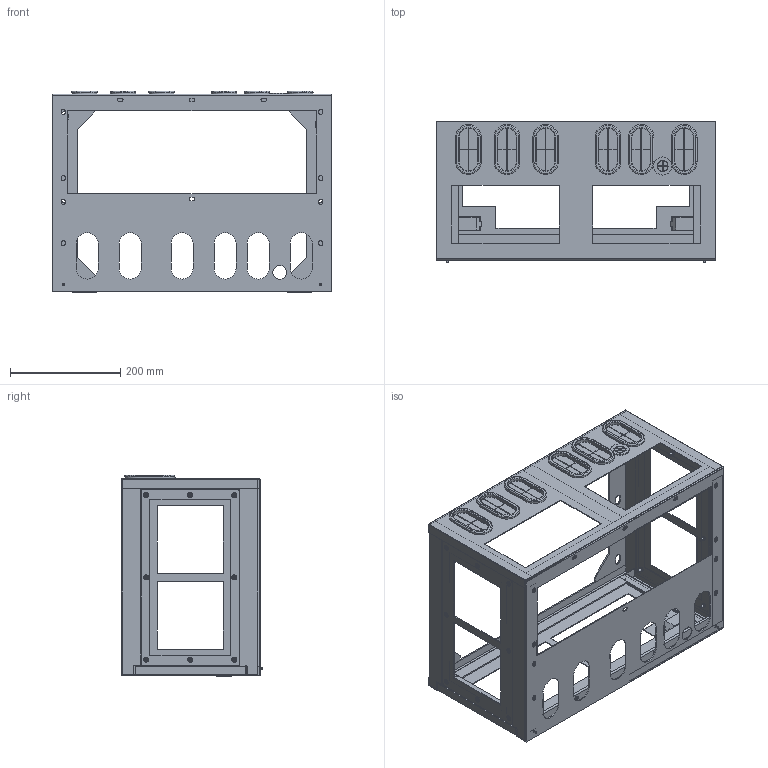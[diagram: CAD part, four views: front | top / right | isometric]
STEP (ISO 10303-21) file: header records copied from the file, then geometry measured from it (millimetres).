
FILE_DESCRIPTION((''),'2;1');
FILE_NAME('133B5810_ASM','2020-02-27T',('U265771'),('Danfoss Power Electronics'),'CREO PARAMETRIC BY PTC INC, 2015480','CREO PARAMETRIC BY PTC INC, 2015480','');
FILE_SCHEMA(('CONFIG_CONTROL_DESIGN','GEOMETRIC_VALIDATION_PROPERTIES_MIM'));
Length unit declared in the file: millimetre
Products named in the file (22): 133B5810-15; 133B5810-16; 133B5810-9; 133B5810-10; 133B5810-5; 133B5810-6; 133B5810-8; 133B5810-14; 133B5810-7; 133B5810-12; 133B5810-2; 133B5810-11; 133B5810-13; 133B5810-1_ASM; 133B5810-3; 133B5810-4; 133B5810-4-1; 133B5810-4_ASM; 133B4391; 133B3688; 133B1795; 133B5810_ASM
Assembly tree (46 placements, depth 3):
  133B5810_ASM
    133B5810-1_ASM
      133B5810-15
      133B5810-16
      133B5810-9
      133B5810-10  x2
      133B5810-5
      133B5810-6
      133B5810-8
      133B5810-14  x2
      133B5810-7
      133B5810-12
      133B5810-2
      133B5810-11
      133B5810-13  x2
    133B5810-3  x2
    133B5810-4_ASM
      133B5810-4
      133B5810-4-1  x2
    133B4391  x16
    133B3688  x6
    133B1795
Bounding box: 506 x 256.5 x 364.85 mm (x, y, z)
Volume: 1243927.2 mm3; surface area: 1315315.9 mm2
Topology: 48 solids, 48 shells, 1753 faces, 4291 edges, 2642 vertices
Faces by surface type: plane 830, cylinder 641, cone 130, sphere 96, torus 48, bspline 8
Entity records: 34014 total; most frequent: CARTESIAN_POINT 5177, DIRECTION 4456, ORIENTED_EDGE 4240, PRESENTATION_STYLE_ASSIGNMENT 2130, STYLED_ITEM 2130, EDGE_CURVE 2120, CURVE_STYLE 2108, VECTOR 1550
